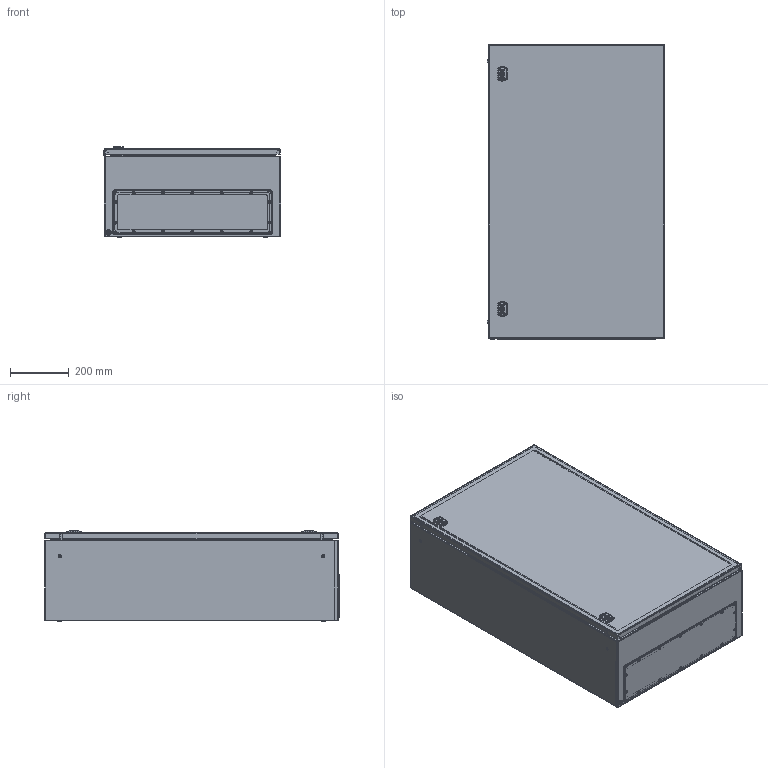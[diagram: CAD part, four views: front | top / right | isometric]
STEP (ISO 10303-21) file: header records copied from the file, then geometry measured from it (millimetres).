
FILE_DESCRIPTION (( 'STEP AP203' ), '1' );
FILE_NAME ('R5ST1063.STEP', '2022-04-28T08:56:16', ( '' ), ( '' ), 'SwSTEP 2.0', 'SolidWorks 2020', '' );
FILE_SCHEMA (( 'CONFIG_CONTROL_DESIGN' ));
Length unit declared in the file: millimetre
Products named in the file (38): PF 4x8 flange ST_04; RB.0048.01.02.0_-15; RB.2237.00.00.0; RB.2171.00.01.0; M6x16 DIN 7985 PZ cl.4,8 Zinc_straight; AC00C380-R; AC00C348-R; RB.2010.00.00.0_-07; RB.0048.01.00.1 C縫-35; M4x6 DIN 7985 PH cl.4,8 Zinc_straight; TPA.08.0002.00.00.0; RB.0048.11.01.0_-04; AC00C316-R; R5ST1063; TPA.08.0060.00.00.0 捘; M8 DIN 6923 cl.8,0 Zinc_straight; 娗p ST; RB.0048.02.00.1 C縫-35; RB.2171.00.00.0 捘; RB.0048.08.00.0 捘_-08; RB.0048.07.01.0_-08; RB.2238.00.00.0; Pin 1.2x12 GOST 3128-70; AC00C356-R_AC00c356(A7100031); RB.0048.00.02.1_-12; A7100032-R; PT Ì6õ16 Cu ISO13918_straight; RB.0048.07.00.0 捘_-08; TPA.08.0001.00.00.0; AC00C317-R; RB.0048.11.00.0 C縫-04; RB.0048.01.01.1_-35; PT Ì8õ25 cl.4.8 Cu ISO13918_straight; AC00C343-R; M4x10 DIN 7500 M PZ cl.4,8 Zinc_straight; PF 7,5x15 door ST_1000x0600; RB.2070.00.00.0; TPA.08.0003.00.00.0
Assembly tree (68 placements, depth 4):
  R5ST1063
    RB.0048.02.00.1 C縫-35
      RB.0048.01.00.1 C縫-35
        RB.0048.01.01.1_-35
        RB.0048.01.02.0_-15
        PT Ì8õ25 cl.4.8 Cu ISO13918_straight  x4
        PT Ì6õ16 Cu ISO13918_straight  x4
      AC00C317-R  x4
      AC00C316-R
      RB.2171.00.00.0 捘  x3
        RB.2171.00.01.0
        Pin 1.2x12 GOST 3128-70
      娗p ST  x3
      M4x6 DIN 7985 PH cl.4,8 Zinc_straight  x3
    RB.0048.11.00.0 C縫-04
      RB.0048.11.01.0_-04
      PF 4x8 flange ST_04
    RB.0048.08.00.0 捘_-08
      RB.0048.07.00.0 捘_-08
        RB.0048.07.01.0_-08
        RB.2237.00.00.0  x3
        RB.2010.00.00.0_-07  x2
      PF 7,5x15 door ST_1000x0600
      TPA.08.0060.00.00.0 捘  x2
        A7100032-R
        AC00C343-R
        AC00C348-R
        TPA.08.0001.00.00.0
        TPA.08.0002.00.00.0
        TPA.08.0003.00.00.0
        M6x16 DIN 7985 PZ cl.4,8 Zinc_straight
      AC00C356-R_AC00c356(A7100031)  x2
    RB.2238.00.00.0  x3
    M8 DIN 6923 cl.8,0 Zinc_straight  x4
    AC00C380-R  x2
    RB.0048.00.02.1_-12
    RB.2070.00.00.0  x4
    M4x10 DIN 7500 M PZ cl.4,8 Zinc_straight  x2
Bounding box: 602.8 x 1003.5 x 308.48 mm (x, y, z)
Volume: 4396724.8 mm3; surface area: 6034619.8 mm2
Topology: 71 solids, 71 shells, 5885 faces, 14695 edges, 9236 vertices
Faces by surface type: plane 3016, cylinder 1588, bspline 472, torus 417, cone 296, sphere 96
Entity records: 136080 total; most frequent: CARTESIAN_POINT 37396, ORIENTED_EDGE 19664, DIRECTION 18797, EDGE_CURVE 9832, VECTOR 6741, LINE 6741, VERTEX_POINT 6273, AXIS2_PLACEMENT_3D 6028
